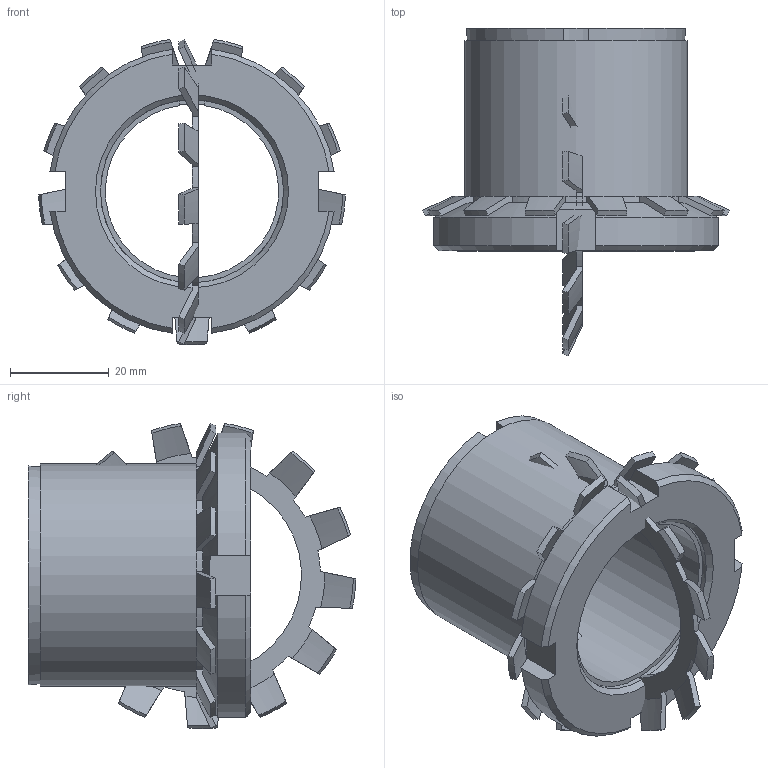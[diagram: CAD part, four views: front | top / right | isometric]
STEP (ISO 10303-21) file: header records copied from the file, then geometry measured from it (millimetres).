
FILE_DESCRIPTION( ( 'Unknown' ), '1' );
FILE_NAME( 'C:/Dokumente und Einstellungen/Sven/Desktop/homepage/cad - homepage/KBS55/KBS 55 - 35 x 45.stp', 'Unknown', ( 'Unknown' ), ( 'Unknown' ), 'XStep 1.0', 'Unknown', ' ' );
FILE_SCHEMA( ( 'automotive_design' ) );
Length unit declared in the file: millimetre
Products named in the file (3): Assem1; KBS 55 - 35 x 45; 08570082_locking_plate_din_5406_mb_8_2_14a
Bounding box: 61.98 x 66.24 x 61.66 mm (x, y, z)
Volume: 72856.4 mm3; surface area: 35357.8 mm2
Topology: 4 solids, 4 shells, 244 faces, 696 edges, 460 vertices
Faces by surface type: plane 108, cone 94, cylinder 42
Full cylindrical faces by diameter (mm): 37 x2, 45 x2
Entity records: 5956 total; most frequent: CARTESIAN_POINT 911, ORIENTED_EDGE 684, DIRECTION 650, EDGE_CURVE 342, STYLED_ITEM 330, PRESENTATION_STYLE_ASSIGNMENT 330, COLOUR_RGB 330, AXIS2_PLACEMENT_3D 257
